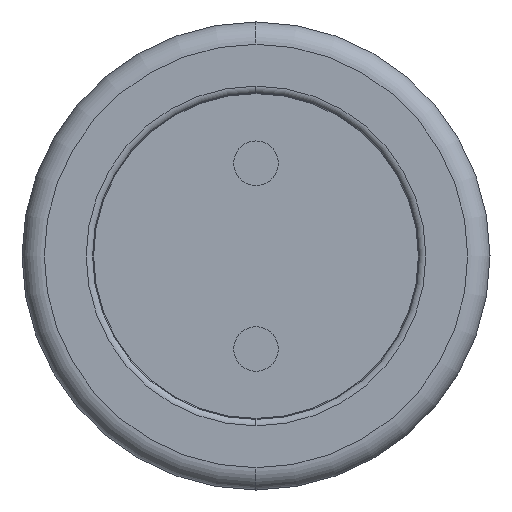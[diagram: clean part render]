
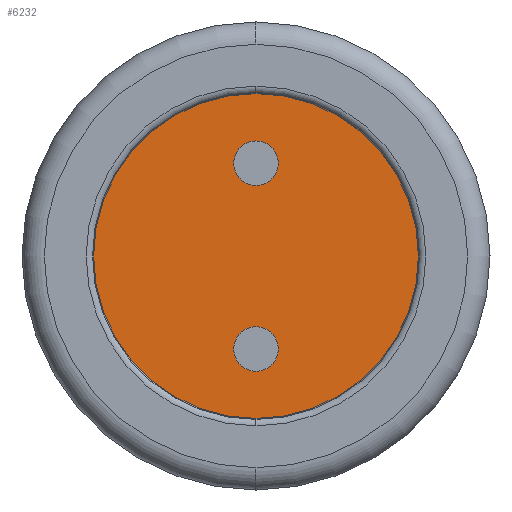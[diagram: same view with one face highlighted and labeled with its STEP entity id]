
A CAD part, left-side view. The second image highlights one B-rep face of the part: STEP entity #6232.
In plain terms, the highlighted planar face has unit normal (-1, 0, 0).
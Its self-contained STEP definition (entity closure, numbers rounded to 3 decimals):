
#40=CARTESIAN_POINT('',(-8.8,0.,0.002));
#41=DIRECTION('',(-1.,0.,0.));
#42=DIRECTION('',(0.,0.,-1.));
#43=AXIS2_PLACEMENT_3D('',#40,#41,#42);
#45=CARTESIAN_POINT('',(-8.8,0.,0.002));
#46=DIRECTION('',(1.,0.,0.));
#47=DIRECTION('',(0.,0.,-1.));
#48=AXIS2_PLACEMENT_3D('',#45,#46,#47);
#50=CARTESIAN_POINT('',(-8.8,0.,-1.25));
#51=DIRECTION('',(-1.,0.,0.));
#52=DIRECTION('',(0.,0.,-1.));
#53=AXIS2_PLACEMENT_3D('',#50,#51,#52);
#55=CARTESIAN_POINT('',(-8.8,0.,-1.25));
#56=DIRECTION('',(-1.,0.,0.));
#57=DIRECTION('',(0.,0.,1.));
#58=AXIS2_PLACEMENT_3D('',#55,#56,#57);
#60=CARTESIAN_POINT('',(-8.8,0.,1.25));
#61=DIRECTION('',(-1.,0.,0.));
#62=DIRECTION('',(0.,0.,-1.));
#63=AXIS2_PLACEMENT_3D('',#60,#61,#62);
#65=CARTESIAN_POINT('',(-8.8,0.,1.25));
#66=DIRECTION('',(-1.,0.,0.));
#67=DIRECTION('',(0.,0.,1.));
#68=AXIS2_PLACEMENT_3D('',#65,#66,#67);
#4685=CARTESIAN_POINT('',(-8.8,0.,-2.198));
#4686=VERTEX_POINT('',#4685);
#4687=CARTESIAN_POINT('',(-8.8,0.,2.202));
#4688=VERTEX_POINT('',#4687);
#4693=CARTESIAN_POINT('',(-8.8,0.,-1.55));
#4694=CARTESIAN_POINT('',(-8.8,0.,-0.95));
#4695=VERTEX_POINT('',#4693);
#4696=VERTEX_POINT('',#4694);
#4697=CARTESIAN_POINT('',(-8.8,0.,0.95));
#4698=CARTESIAN_POINT('',(-8.8,0.,1.55));
#4699=VERTEX_POINT('',#4697);
#4700=VERTEX_POINT('',#4698);
#6211=CARTESIAN_POINT('',(-8.8,0.,0.002));
#6212=DIRECTION('',(1.,0.,0.));
#6213=DIRECTION('',(0.,0.,1.));
#6214=AXIS2_PLACEMENT_3D('',#6211,#6212,#6213);
#6215=PLANE('',#6214);
#6216=ORIENTED_EDGE('',*,*,#6190,.F.);
#6217=ORIENTED_EDGE('',*,*,#6206,.T.);
#6218=EDGE_LOOP('',(#6216,#6217));
#6219=FACE_OUTER_BOUND('',#6218,.F.);
#6221=ORIENTED_EDGE('',*,*,#6220,.T.);
#6223=ORIENTED_EDGE('',*,*,#6222,.T.);
#6224=EDGE_LOOP('',(#6221,#6223));
#6225=FACE_BOUND('',#6224,.F.);
#6227=ORIENTED_EDGE('',*,*,#6226,.T.);
#6229=ORIENTED_EDGE('',*,*,#6228,.T.);
#6230=EDGE_LOOP('',(#6227,#6229));
#6231=FACE_BOUND('',#6230,.F.);
#6232=ADVANCED_FACE('',(#6219,#6225,#6231),#6215,.F.);
#44=CIRCLE('',#43,2.2);
#49=CIRCLE('',#48,2.2);
#54=CIRCLE('',#53,0.3);
#59=CIRCLE('',#58,0.3);
#64=CIRCLE('',#63,0.3);
#69=CIRCLE('',#68,0.3);
#6190=EDGE_CURVE('',#4686,#4688,#44,.T.);
#6206=EDGE_CURVE('',#4686,#4688,#49,.T.);
#6220=EDGE_CURVE('',#4695,#4696,#54,.T.);
#6222=EDGE_CURVE('',#4696,#4695,#59,.T.);
#6226=EDGE_CURVE('',#4699,#4700,#64,.T.);
#6228=EDGE_CURVE('',#4700,#4699,#69,.T.);
